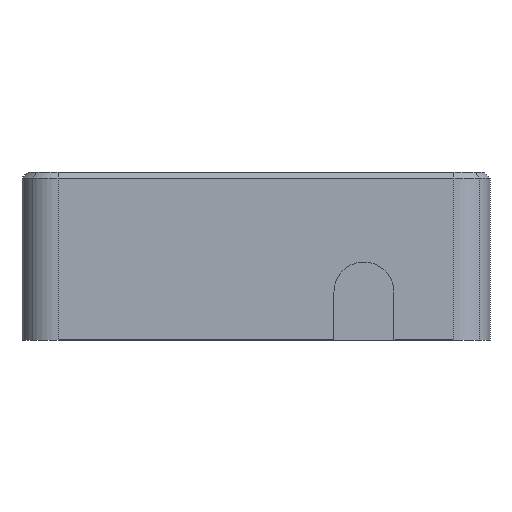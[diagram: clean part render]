
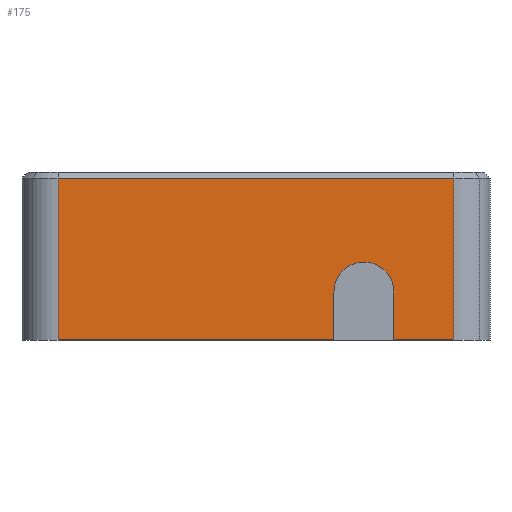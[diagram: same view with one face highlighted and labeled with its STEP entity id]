
A CAD part, left-side view. The second image highlights one B-rep face of the part: STEP entity #175.
In plain terms, the highlighted planar face has unit normal (-1, 0, 0).
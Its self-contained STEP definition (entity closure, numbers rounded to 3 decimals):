
#175=ADVANCED_FACE('',(#405),#406,.F.);
#405=FACE_OUTER_BOUND('',#692,.T.);
#406=PLANE('',#693);
#692=EDGE_LOOP('',(#1126,#1127,#1128,#1129,#1130,#1131,#1132,#1133,#1134));
#693=AXIS2_PLACEMENT_3D('',#1135,#1136,#1137);
#1126=ORIENTED_EDGE('',*,*,#1785,.F.);
#1127=ORIENTED_EDGE('',*,*,#1845,.F.);
#1128=ORIENTED_EDGE('',*,*,#1846,.F.);
#1129=ORIENTED_EDGE('',*,*,#1803,.T.);
#1130=ORIENTED_EDGE('',*,*,#1788,.T.);
#1131=ORIENTED_EDGE('',*,*,#1843,.T.);
#1132=ORIENTED_EDGE('',*,*,#1847,.T.);
#1133=ORIENTED_EDGE('',*,*,#1848,.F.);
#1134=ORIENTED_EDGE('',*,*,#1741,.F.);
#1135=CARTESIAN_POINT('',(-55.0,0.0,-6.75));
#1136=DIRECTION('',(1.0,0.0,0.0));
#1137=DIRECTION('',(0.0,0.0,-1.0));
#1741=EDGE_CURVE('',#2092,#2094,#2095,.T.);
#1785=EDGE_CURVE('',#2168,#2092,#2170,.T.);
#1788=EDGE_CURVE('',#2174,#2172,#2175,.T.);
#1803=EDGE_CURVE('',#2196,#2174,#2197,.T.);
#1843=EDGE_CURVE('',#2172,#2258,#2260,.T.);
#1845=EDGE_CURVE('',#2262,#2168,#2263,.T.);
#1846=EDGE_CURVE('',#2196,#2262,#2264,.T.);
#1847=EDGE_CURVE('',#2258,#2265,#2266,.T.);
#1848=EDGE_CURVE('',#2094,#2265,#2267,.T.);
#2092=VERTEX_POINT('',#2577);
#2094=VERTEX_POINT('',#2579);
#2095=LINE('',#2580,#2581);
#2168=VERTEX_POINT('',#2675);
#2170=LINE('',#2678,#2679);
#2172=VERTEX_POINT('',#2681);
#2174=VERTEX_POINT('',#2684);
#2175=CIRCLE('',#2685,2.5);
#2196=VERTEX_POINT('',#2712);
#2197=LINE('',#2713,#2714);
#2258=VERTEX_POINT('',#2791);
#2260=CIRCLE('',#2794,2.5);
#2262=VERTEX_POINT('',#2796);
#2263=LINE('',#2797,#2798);
#2264=LINE('',#2799,#2800);
#2265=VERTEX_POINT('',#2801);
#2266=LINE('',#2802,#2803);
#2267=LINE('',#2804,#2805);
#2577=CARTESIAN_POINT('',(-55.0,-16.5,6.5));
#2579=CARTESIAN_POINT('',(-55.0,-16.5,-7.0));
#2580=CARTESIAN_POINT('',(-55.0,-16.5,0.0));
#2581=VECTOR('',#3148,0.875);
#2675=CARTESIAN_POINT('',(-55.0,16.5,6.5));
#2678=CARTESIAN_POINT('',(-55.0,-9.75,6.5));
#2679=VECTOR('',#3210,1.0);
#2681=CARTESIAN_POINT('',(-55.0,-7.232,-1.232));
#2684=CARTESIAN_POINT('',(-55.0,-6.5,-3.0));
#2685=AXIS2_PLACEMENT_3D('',#3212,#3213,#3214);
#2712=CARTESIAN_POINT('',(-55.0,-6.5,-7.));
#2713=CARTESIAN_POINT('',(-55.0,-6.5,-6.75));
#2714=VECTOR('',#3233,1.0);
#2791=CARTESIAN_POINT('',(-55.0,-11.5,-3.0));
#2794=AXIS2_PLACEMENT_3D('',#3290,#3291,#3292);
#2796=CARTESIAN_POINT('',(-55.0,16.5,-7.0));
#2797=CARTESIAN_POINT('',(-55.0,16.5,0.0));
#2798=VECTOR('',#3293,0.875);
#2799=CARTESIAN_POINT('',(-55.0,0.0,-7.0));
#2800=VECTOR('',#3294,1.0);
#2801=CARTESIAN_POINT('',(-55.0,-11.5,-7.));
#2802=CARTESIAN_POINT('',(-55.0,-11.5,1.5));
#2803=VECTOR('',#3295,1.0);
#2804=CARTESIAN_POINT('',(-55.0,0.0,-7.0));
#2805=VECTOR('',#3296,1.0);
#3148=DIRECTION('',(0.0,0.0,-1.0));
#3210=DIRECTION('',(0.0,-1.0,0.0));
#3212=CARTESIAN_POINT('',(-55.0,-9.0,-3.0));
#3213=DIRECTION('',(1.0,0.0,-0.0));
#3214=DIRECTION('',(0.0,0.707,0.707));
#3233=DIRECTION('',(0.0,0.0,1.0));
#3290=CARTESIAN_POINT('',(-55.0,-9.0,-3.0));
#3291=DIRECTION('',(1.0,0.0,-0.0));
#3292=DIRECTION('',(0.0,0.707,0.707));
#3293=DIRECTION('',(0.0,0.0,1.0));
#3294=DIRECTION('',(0.0,1.0,0.0));
#3295=DIRECTION('',(0.0,0.0,-1.0));
#3296=DIRECTION('',(0.0,1.0,0.0));
